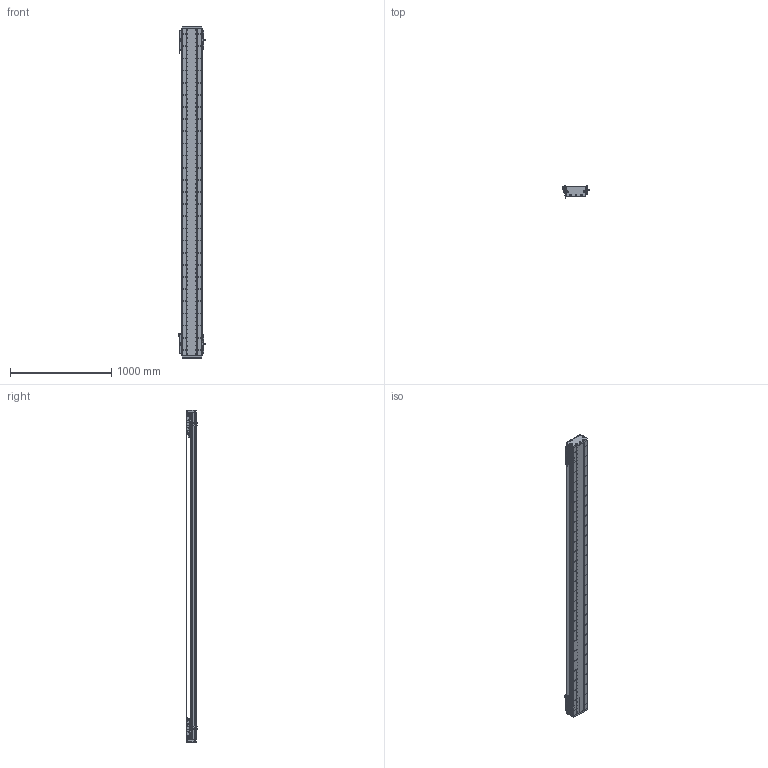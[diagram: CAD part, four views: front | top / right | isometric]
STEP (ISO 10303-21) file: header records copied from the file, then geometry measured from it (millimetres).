
FILE_DESCRIPTION (( 'STEP AP203' ), '1' );
FILE_NAME ('DA-C195-2-C2-T2780-C010-0.2 眻盄萇儂.STEP', '2025-08-14T02:14:31', ( '' ), ( '' ), 'SwSTEP 2.0', 'SolidWorks 2019', '' );
FILE_SCHEMA (( 'CONFIG_CONTROL_DESIGN' ));
Length unit declared in the file: millimetre
Products named in the file (19): DA195詩湍菜輸-1; DKW168-HXJ-ZJ-00 笢潔滅袉砎蝶-1; DA195詩湍嶺輸-1; PM-Y65嫖萇羲壽郪璃-1; DKW-KGZ-ZJ-00 中间光电开关支架-1; DA165-GYP-00 光电感应片(默认)-1; DA-C195-GD-DB-H-00 傷啣-1; MS200 棠掑喜S315-T1740-1; DKW-GYP-ZJ-00 笢潔嫖萇覜茼え-1; CU195-C2賑輸-俋楷-1; DA-C195-2-C2-T2780-C010-0.2 眻盄萇儂; 葩璃 DA95-GT-T-00-1; PM-T45ㄗ侂狟ㄘ-1; DA195詩湍郪璃-1; LMT黍杅芛-1; IU-CU195-L 菁釱絳寢-1; DA195詩湍裔啣-1; DA95-HXJ-00 遣喳砎蝶-1; IU-CU195-L-00 菁釱(L3240)
Assembly tree (37 placements, depth 3):
  DA-C195-2-C2-T2780-C010-0.2 眻盄萇儂
    DA195詩湍郪璃-1
      DA195詩湍菜輸-1  x2
      DA195詩湍裔啣-1
      DA195詩湍嶺輸-1  x2
      DA95-HXJ-00 遣喳砎蝶-1  x8
      DA-C195-GD-DB-H-00 傷啣-1  x2
    IU-CU195-L 菁釱絳寢-1
      IU-CU195-L-00 菁釱(L3240)
      葩璃 DA95-GT-T-00-1  x4
    LMT黍杅芛-1  x2
    MS200 棠掑喜S315-T1740-1
    PM-T45ㄗ侂狟ㄘ-1  x4
    DA165-GYP-00 光电感应片(默认)-1  x2
    PM-Y65嫖萇羲壽郪璃-1
    DKW168-HXJ-ZJ-00 笢潔滅袉砎蝶-1
    DKW-GYP-ZJ-00 笢潔嫖萇覜茼え-1
    DKW-KGZ-ZJ-00 中间光电开关支架-1
    CU195-C2賑輸-俋楷-1  x2
Bounding box: 258.2 x 115.45 x 3280 mm (x, y, z)
Volume: 19584199.3 mm3; surface area: 5744860.3 mm2
Topology: 114 solids, 242 shells, 7275 faces, 19607 edges, 12241 vertices
Faces by surface type: cylinder 3556, plane 2635, cone 916, torus 88, sphere 72, bspline 8
Entity records: 164777 total; most frequent: CARTESIAN_POINT 45871, ORIENTED_EDGE 25046, DIRECTION 23570, EDGE_CURVE 12523, AXIS2_PLACEMENT_3D 8709, VERTEX_POINT 8128, VECTOR 6152, LINE 6152
